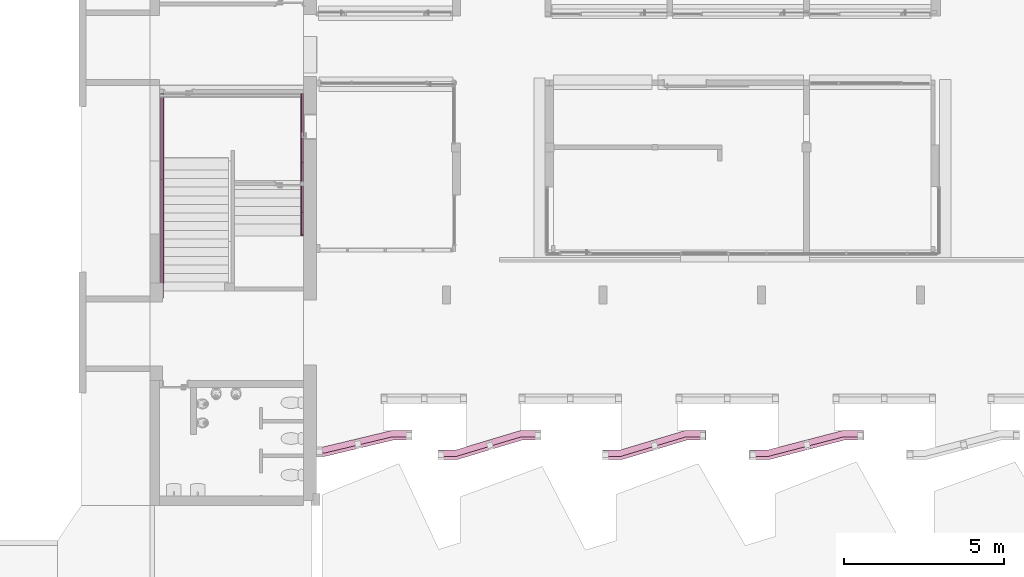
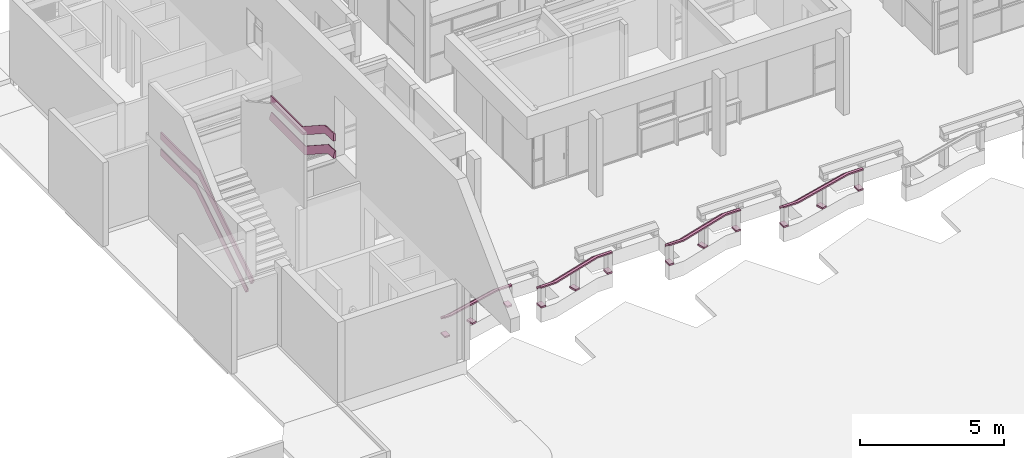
# One storey, part 115 of 117: 6 furniture elements.
"""IFC4 building model written with IfcOpenShell, lengths in metres."""

import ifcopenshell
import ifcopenshell.guid

model = None  # the IFC model being written
_history = None  # IfcOwnerHistory: only IFC2X3 demands one
_inside = {}  # id of a spatial element -> (the spatial element, [elements in it])
_under = {}  # id of a project, library or spatial element -> (it, [spatial elements below it])
_declared = {}  # id of a project -> (the project, [libraries it declares])
_typed = {}  # id of a type object -> (the type object, [elements of that type])
_made_of = {}  # id of a material, layer set ... -> (it, [elements and type objects made of it])


def new_model(schema):
    """Start an empty IFC model of exactly this schema.

    Asked for "IFC4X3", IfcOpenShell would pick the latest addendum, in which some entities
    have other attributes; the version numbers below select the first issue.
    IFC2X3 requires an IfcOwnerHistory on every rooted entity: one is made here for all.
    """
    global model, _history
    if schema == "IFC4X3":
        model = ifcopenshell.file(schema_version=(4, 3, 0, 0))
    else:
        model = ifcopenshell.file(schema=schema)
    _inside.clear()
    _under.clear()
    _declared.clear()
    _typed.clear()
    _made_of.clear()
    _history = None
    if model.schema == "IFC2X3":
        org = make("IfcOrganization", Name="unknown")
        user = make(
            "IfcPersonAndOrganization",
            ThePerson=make("IfcPerson", FamilyName="unknown"),
            TheOrganization=org,
        )
        app = make(
            "IfcApplication",
            ApplicationDeveloper=org,
            Version="unknown",
            ApplicationFullName="unknown",
            ApplicationIdentifier="unknown",
        )
        _history = make(
            "IfcOwnerHistory",
            OwningUser=user,
            OwningApplication=app,
            ChangeAction="ADDED",
            CreationDate=0,
        )
    return model


def make(cls, **values):
    """One entity of the class cls with the attributes given. An attribute that is None is left unset."""
    return model.create_entity(
        cls, **{name: value for name, value in values.items() if value is not None}
    )


def entity(cls, *values):
    """Any entity or typed value of the class cls, its attributes in the order of the schema. None: left unset."""
    e = model.create_entity(cls)
    for i, value in enumerate(values):
        if value is not None:
            e[i] = value
    return e


def rooted(cls, **values):
    """An entity with a GlobalId (a new one), such as an element, a storey or a relation."""
    return make(cls, GlobalId=ifcopenshell.guid.new(), OwnerHistory=_history, **values)


def si_unit(unit_type, name, prefix=None):
    """IfcSIUnit, for example si_unit("LENGTHUNIT", "METRE", prefix="MILLI")."""
    return make("IfcSIUnit", UnitType=unit_type, Prefix=prefix, Name=name)


def converted_unit(unit_type, name, factor, base, dimensions=None, offset=None):
    """IfcConversionBasedUnit, such as the inch: factor (a typed value) times the base unit."""
    return make(
        "IfcConversionBasedUnit"
        if offset is None
        else "IfcConversionBasedUnitWithOffset",
        ConversionOffset=offset,
        Dimensions=None
        if dimensions is None
        else entity("IfcDimensionalExponents", *dimensions),
        UnitType=unit_type,
        Name=name,
        ConversionFactor=make(
            "IfcMeasureWithUnit", ValueComponent=factor, UnitComponent=base
        ),
    )


def derived_unit(unit_type, elements):
    """IfcDerivedUnit: a product of units, each with its exponent."""
    return make(
        "IfcDerivedUnit",
        Elements=[
            make("IfcDerivedUnitElement", Unit=unit, Exponent=power)
            for unit, power in elements
        ],
        UnitType=unit_type,
    )


def assignment(units):
    """IfcUnitAssignment: the units of a project."""
    return None if units is None else make("IfcUnitAssignment", Units=units)


def point(xyz):
    """IfcCartesianPoint."""
    return None if xyz is None else make("IfcCartesianPoint", Coordinates=xyz)


def direction(xyz):
    """IfcDirection."""
    return None if xyz is None else make("IfcDirection", DirectionRatios=xyz)


def frame(location, z_axis=None, x_axis=None):
    """IfcAxis2Placement3D, a coordinate frame: its origin and axes. An axis left out is left unset."""
    return make(
        "IfcAxis2Placement3D",
        Location=point(location),
        Axis=direction(z_axis),
        RefDirection=direction(x_axis),
    )


def origin():
    """The frame at (0, 0, 0) with its axes left unset."""
    return frame((0.0, 0.0, 0.0))


def place(relative_to, where):
    """IfcLocalPlacement: puts the frame where relative to a parent placement (None: the world)."""
    return make(
        "IfcLocalPlacement", PlacementRelTo=relative_to, RelativePlacement=where
    )


def context(
    kind, dimensions, precision=None, world=None, true_north=None, identifier=None
):
    """IfcGeometricRepresentationContext, for example the 3D "Model" context."""
    return make(
        "IfcGeometricRepresentationContext",
        ContextIdentifier=identifier,
        ContextType=kind,
        CoordinateSpaceDimension=dimensions,
        Precision=precision,
        WorldCoordinateSystem=world,
        TrueNorth=true_north,
    )


def subcontext(parent, identifier, kind, view, scale=None):
    """IfcGeometricRepresentationSubContext, for example "Body" below "Model"."""
    return make(
        "IfcGeometricRepresentationSubContext",
        ContextIdentifier=identifier,
        ContextType=kind,
        ParentContext=parent,
        TargetScale=scale,
        TargetView=view,
    )


def project(units=None, contexts=None):
    """IfcProject with its units and contexts."""
    return rooted(
        "IfcProject",
        Name="project",
        RepresentationContexts=contexts,
        UnitsInContext=assignment(units),
    )


def spatial(cls, under=None, at=None, **own):
    """A site, building, storey or space (cls), placed at a placement, below another one or the project."""
    s = rooted(cls, ObjectPlacement=at, **own)
    if under is not None:
        _under.setdefault(under.id(), (under, []))[1].append(s)
    return s


def point_list(points):
    """IfcCartesianPointList2D or 3D."""
    cls = (
        "IfcCartesianPointList2D" if len(points[0]) == 2 else "IfcCartesianPointList3D"
    )
    return make(cls, CoordList=points)


def polygons(points, faces, closed=None, point_numbers=None):
    """IfcPolygonalFaceSet: a face is its outer loop, then its inner loops; points numbered from 1."""
    made = []
    for loops in faces:
        if len(loops) == 1:
            made.append(make("IfcIndexedPolygonalFace", CoordIndex=loops[0]))
        else:
            made.append(
                make(
                    "IfcIndexedPolygonalFaceWithVoids",
                    CoordIndex=loops[0],
                    InnerCoordIndices=loops[1:],
                )
            )
    return make(
        "IfcPolygonalFaceSet",
        Coordinates=point_list(points),
        Closed=closed,
        Faces=made,
        PnIndex=point_numbers,
    )


def shape(context_of_items, identifier, shape_type, items):
    """IfcShapeRepresentation: the items that make up one representation, for example the "Body"."""
    return make(
        "IfcShapeRepresentation",
        ContextOfItems=context_of_items,
        RepresentationIdentifier=identifier,
        RepresentationType=shape_type,
        Items=items,
    )


def source(mapping_origin, context_of_items, identifier, shape_type, items):
    """IfcRepresentationMap: a shape defined once, which mapped items show again and again."""
    return make(
        "IfcRepresentationMap",
        MappingOrigin=mapping_origin,
        MappedRepresentation=shape(context_of_items, identifier, shape_type, items),
    )


def transform(
    local_origin,
    x_axis=None,
    y_axis=None,
    z_axis=None,
    scale=None,
    scale2=None,
    scale3=None,
    uniform=True,
):
    """IfcCartesianTransformationOperator3D, or its non-uniform kind. x_axis, y_axis, z_axis: its Axis1, 2, 3."""
    if uniform:
        return make(
            "IfcCartesianTransformationOperator3D",
            Axis1=direction(x_axis),
            Axis2=direction(y_axis),
            LocalOrigin=point(local_origin),
            Scale=scale,
            Axis3=direction(z_axis),
        )
    return make(
        "IfcCartesianTransformationOperator3DnonUniform",
        Axis1=direction(x_axis),
        Axis2=direction(y_axis),
        LocalOrigin=point(local_origin),
        Scale=scale,
        Axis3=direction(z_axis),
        Scale2=scale2,
        Scale3=scale3,
    )


def mapped(mapping_source, mapping_target):
    """IfcMappedItem: shows the shape of a source again, moved by a transform."""
    return make(
        "IfcMappedItem", MappingSource=mapping_source, MappingTarget=mapping_target
    )


def material(Name=None, Category=None):
    """IfcMaterial."""
    return make("IfcMaterial", Name=Name, Category=Category)


def made_of(thing, what):
    """Note that an element or type object is made of a material, layer set ...; save() writes the relation."""
    if what is not None:
        _made_of.setdefault(what.id(), (what, []))[1].append(thing)
    return thing


def type_object(cls, material=None, **own):
    """A type object (cls), such as IfcWallType, which elements share."""
    return made_of(rooted(cls, **own), material)


def type_shapes(of_type, sources):
    """Give a type object the sources (RepresentationMaps) that its elements show as mapped items."""
    of_type.RepresentationMaps = sources


def element(
    cls,
    number,
    at=None,
    inside=None,
    cuts=None,
    type_object=None,
    material=None,
    context=None,
    identifier="Body",
    shape_type=None,
    held_by="IfcProductDefinitionShape",
    body=None,
    shapes=None,
    **own,
):
    """One element of the class cls, such as IfcWall. Its Tag is "e" and its number.

    at: its placement. inside: the storey or other place that contains it. cuts: it is an
    opening in that element (IfcRelVoidsElement). A single representation is given by context,
    identifier, shape_type and body (its items); several are given by shapes. held_by: the class
    of the entity that holds the representations. save() writes the other relations.
    """
    e = rooted(cls, Tag="e%d" % number, ObjectPlacement=at, **own)
    if body is not None:
        shapes = [shape(context, identifier, shape_type, body)]
    if shapes is not None:
        e.Representation = make(held_by, Representations=shapes)
    if inside is not None:
        _inside.setdefault(inside.id(), (inside, []))[1].append(e)
    if cuts is not None:
        rooted(
            "IfcRelVoidsElement", RelatingBuildingElement=cuts, RelatedOpeningElement=e
        )
    if type_object is not None:
        _typed.setdefault(type_object.id(), (type_object, []))[1].append(e)
    return made_of(e, material)


def aggregate(whole, parts):
    """IfcRelAggregates: a whole, such as a stair, and the parts it consists of."""
    return rooted("IfcRelAggregates", RelatingObject=whole, RelatedObjects=parts)


def save(model, path):
    """Write the relations noted so far, then the file.

    IfcRelAggregates (storeys below a building ...), IfcRelContainedInSpatialStructure (elements
    in a storey), IfcRelDefinesByType, IfcRelAssociatesMaterial and IfcRelDeclares: one each for
    every whole, place, type object, material and project.
    """
    for whole, parts in _under.values():
        aggregate(whole, parts)
    for where, things in _inside.values():
        rooted(
            "IfcRelContainedInSpatialStructure",
            RelatedElements=things,
            RelatingStructure=where,
        )
    for kind, things in _typed.values():
        rooted("IfcRelDefinesByType", RelatedObjects=things, RelatingType=kind)
    for what, things in _made_of.values():
        rooted("IfcRelAssociatesMaterial", RelatedObjects=things, RelatingMaterial=what)
    for by, libraries in _declared.values():
        rooted("IfcRelDeclares", RelatingContext=by, RelatedDefinitions=libraries)
    model.write(path)


model = new_model("IFC4")

# Units and contexts
model_context = context("Model", 3, precision=1e-05, world=origin(), true_north=direction((6.123031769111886e-17, 1.0)))
body_context = subcontext(model_context, "Body", "Model", "MODEL_VIEW")
ifc_project = project(units=[si_unit("LENGTHUNIT", "METRE"), si_unit("AREAUNIT", "SQUARE_METRE"), si_unit("VOLUMEUNIT", "CUBIC_METRE"), converted_unit("PLANEANGLEUNIT", "DEGREE", entity("IfcRatioMeasure", 0.017453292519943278), si_unit("PLANEANGLEUNIT", "RADIAN"), dimensions=[0, 0, 0, 0, 0, 0, 0]), si_unit("MASSUNIT", "GRAM", prefix="KILO"), derived_unit("MASSDENSITYUNIT", [(si_unit("MASSUNIT", "GRAM", prefix="KILO"), 1), (si_unit("LENGTHUNIT", "METRE"), -3)]), derived_unit("MOMENTOFINERTIAUNIT", [(si_unit("LENGTHUNIT", "METRE"), 4)]), si_unit("TIMEUNIT", "SECOND"), si_unit("FREQUENCYUNIT", "HERTZ"), si_unit("THERMODYNAMICTEMPERATUREUNIT", "DEGREE_CELSIUS"), derived_unit("THERMALTRANSMITTANCEUNIT", [(si_unit("MASSUNIT", "GRAM", prefix="KILO"), 1), (si_unit("THERMODYNAMICTEMPERATUREUNIT", "KELVIN"), -1), (si_unit("TIMEUNIT", "SECOND"), -3)]), derived_unit("VOLUMETRICFLOWRATEUNIT", [(si_unit("LENGTHUNIT", "METRE"), 3), (si_unit("TIMEUNIT", "SECOND"), -1)]), derived_unit("MASSFLOWRATEUNIT", [(si_unit("MASSUNIT", "GRAM", prefix="KILO"), 1), (si_unit("TIMEUNIT", "SECOND"), -1)]), derived_unit("ROTATIONALFREQUENCYUNIT", [(si_unit("TIMEUNIT", "SECOND"), -1)]), si_unit("ELECTRICCURRENTUNIT", "AMPERE"), si_unit("ELECTRICVOLTAGEUNIT", "VOLT"), si_unit("POWERUNIT", "WATT"), si_unit("FORCEUNIT", "NEWTON", prefix="KILO"), si_unit("ILLUMINANCEUNIT", "LUX"), si_unit("LUMINOUSFLUXUNIT", "LUMEN"), si_unit("LUMINOUSINTENSITYUNIT", "CANDELA"), derived_unit("USERDEFINED", [(si_unit("MASSUNIT", "GRAM", prefix="KILO"), -1), (si_unit("LENGTHUNIT", "METRE"), -2), (si_unit("TIMEUNIT", "SECOND"), 3), (si_unit("LUMINOUSFLUXUNIT", "LUMEN"), 1)]), derived_unit("SOUNDPOWERUNIT", [(si_unit("MASSUNIT", "GRAM", prefix="KILO"), 1), (si_unit("LENGTHUNIT", "METRE"), 2), (si_unit("TIMEUNIT", "SECOND"), -3)]), derived_unit("SOUNDPRESSUREUNIT", [(si_unit("MASSUNIT", "GRAM", prefix="KILO"), 1), (si_unit("LENGTHUNIT", "METRE"), -1), (si_unit("TIMEUNIT", "SECOND"), -2)]), derived_unit("LINEARVELOCITYUNIT", [(si_unit("LENGTHUNIT", "METRE"), 1), (si_unit("TIMEUNIT", "SECOND"), -1)]), si_unit("PRESSUREUNIT", "PASCAL"), derived_unit("USERDEFINED", [(si_unit("LENGTHUNIT", "METRE"), -2), (si_unit("MASSUNIT", "GRAM", prefix="KILO"), 1), (si_unit("TIMEUNIT", "SECOND"), -2)]), derived_unit("LINEARFORCEUNIT", [(si_unit("MASSUNIT", "GRAM", prefix="KILO"), 1), (si_unit("LENGTHUNIT", "METRE"), 1), (si_unit("TIMEUNIT", "SECOND"), -2), (si_unit("LENGTHUNIT", "METRE"), -1)]), derived_unit("PLANARFORCEUNIT", [(si_unit("MASSUNIT", "GRAM", prefix="KILO"), 1), (si_unit("LENGTHUNIT", "METRE"), 1), (si_unit("TIMEUNIT", "SECOND"), -2), (si_unit("LENGTHUNIT", "METRE"), -2)])], contexts=[model_context])

# Site, building, storey
site_placement = place(None, origin())
site = spatial("IfcSite", under=ifc_project, at=site_placement, Name="Superficie", CompositionType="ELEMENT")
building_placement = place(site_placement, origin())
building = spatial("IfcBuilding", under=site, at=building_placement, CompositionType="ELEMENT")
storey_placement = place(building_placement, origin())
storey = spatial("IfcBuildingStorey", under=building, at=storey_placement, Name="Nivel 0", CompositionType="ELEMENT", Elevation=0.0)

# Furniture
ifc_material = material(Name="Madera - Listel", Category="Madera")
furniture_type_1 = type_object("IfcFurnitureType", Name="baranda andenes9:baranda andenes", AssemblyPlace="NOTDEFINED", PredefinedType="NOTDEFINED", material=ifc_material)
shared_shape_1 = source(origin(), body_context, "Body", "Tessellation", [
    polygons([(2.789999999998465, 0.8103703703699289, 0.07), (2.789999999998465, 0.5103703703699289, 0.07), (2.989999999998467, 0.5103703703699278, 0.07), (2.989999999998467, 0.8103703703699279, 0.07), (2.889999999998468, 0.8103703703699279, 0.07), (2.789999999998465, 0.8103703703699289, 0.0), (2.789999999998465, 0.5103703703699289, 0.0), (2.989999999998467, 0.5103703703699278, 0.0), (2.989999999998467, 0.8103703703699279, 0.0), (2.889999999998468, 0.8103703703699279, 0.0)], [[[1, 2, 3, 4, 5]], [[2, 1, 6, 7]], [[3, 2, 7, 8]], [[4, 3, 8, 9]], [[5, 4, 9, 10]], [[1, 5, 10, 6]], [[6, 10, 9, 8, 7]]], closed=True),
    polygons([(4.331468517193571e-15, 0.30000000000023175, 0.0), (0.2000000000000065, 0.3000000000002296, 0.0), (0.2000000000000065, 2.306506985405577e-13, 0.0), (4.331468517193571e-15, 2.306506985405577e-13, 0.0), (4.331468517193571e-15, 2.306506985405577e-13, 0.07), (4.331468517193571e-15, 0.30000000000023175, 0.07), (0.2000000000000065, 2.306506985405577e-13, 0.07), (0.2000000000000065, 0.3000000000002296, 0.07)], [[[1, 2, 3, 4]], [[5, 6, 1, 4]], [[7, 5, 4, 3]], [[8, 7, 3, 2]], [[6, 8, 2, 1]], [[6, 5, 7, 8]]], closed=True),
    polygons([(1.2277526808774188, 0.23188370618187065, 0.07), (1.1578482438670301, 0.5236256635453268, 0.07), (1.1578482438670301, 0.5236256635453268, 0.0), (1.2277526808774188, 0.23188370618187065, 0.0), (1.422247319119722, 0.27848666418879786, 0.07), (1.422247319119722, 0.27848666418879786, 0.0), (1.3523428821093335, 0.570228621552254, 0.07), (1.3523428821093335, 0.570228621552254, 0.0), (1.255095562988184, 0.5469271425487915, 0.07), (1.255095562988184, 0.5469271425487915, 0.0)], [[[1, 2, 3, 4]], [[5, 1, 4, 6]], [[7, 5, 6, 8]], [[9, 7, 8, 10]], [[2, 9, 10, 3]], [[3, 10, 8, 6, 4]], [[2, 1, 5, 7, 9]]], closed=True),
    polygons([(4.331468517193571e-15, 0.10384615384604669, 0.9000000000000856), (4.331468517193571e-15, 0.3000000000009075, 0.7499999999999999), (4.331468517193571e-15, 0.30000000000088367, 0.66), (4.331468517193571e-15, 0.240000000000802, 0.6600000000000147), (4.331468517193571e-15, 0.24000000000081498, 0.7100000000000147), (4.331468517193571e-15, 0.07000000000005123, 0.8399999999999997), (4.331468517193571e-15, 5.089475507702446e-14, 0.8400000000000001), (4.331468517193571e-15, 1.0828671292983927e-15, 0.8999999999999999), (2.9899999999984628, 0.6142165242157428, 0.9000000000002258), (2.9899999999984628, 0.5103703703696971, 0.9000000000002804), (2.9899999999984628, 0.510370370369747, 0.8399999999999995), (2.9899999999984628, 0.5803703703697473, 0.8399999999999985), (2.9899999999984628, 0.750370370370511, 0.7100000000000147), (2.9899999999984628, 0.750370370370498, 0.6599999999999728), (2.9899999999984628, 0.8103703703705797, 0.6599999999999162), (2.9899999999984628, 0.8103703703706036, 0.7500000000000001), (0.24773230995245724, 0.10384615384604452, 0.9000000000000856), (0.2245600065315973, 0.3000000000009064, 0.7499999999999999), (0.2245600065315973, 0.30000000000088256, 0.66), (2.3545600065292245, 0.8103703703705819, 0.6599999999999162), (2.3616480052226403, 0.7503703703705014, 0.6600000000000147), (0.23164800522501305, 0.240000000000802, 0.6600000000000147), (0.23164800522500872, 0.2400000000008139, 0.7100000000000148), (0.2517306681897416, 0.07000000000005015, 0.8400000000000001), (2.3817306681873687, 0.5803703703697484, 0.8399999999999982), (2.389999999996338, 0.5103703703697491, 0.8400000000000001), (0.25999999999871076, 4.981188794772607e-14, 0.8400000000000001), (0.2599999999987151, -1.0828671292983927e-15, 0.8999999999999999), (2.389999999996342, 0.5103703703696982, 0.9000000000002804), (2.3777323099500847, 0.6142165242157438, 0.9000000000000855), (2.3545600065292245, 0.8103703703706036, 0.7499999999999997), (2.361648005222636, 0.7503703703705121, 0.7100000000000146)], [[[1, 2, 3, 4, 5, 6, 7, 8]], [[9, 10, 11, 12, 13, 14, 15, 16]], [[2, 1, 17, 18]], [[3, 2, 18, 19]], [[4, 3, 19, 20, 15, 14, 21, 22]], [[5, 4, 22, 23]], [[6, 5, 23, 24]], [[7, 6, 24, 25, 12, 11, 26, 27]], [[8, 7, 27, 28]], [[1, 8, 28, 29, 10, 9, 30, 17]], [[18, 17, 30, 31]], [[19, 18, 31, 20]], [[23, 22, 21, 32]], [[24, 23, 32, 25]], [[28, 27, 26, 29]], [[31, 30, 9, 16]], [[20, 31, 16, 15]], [[32, 21, 14, 13]], [[25, 32, 13, 12]], [[29, 26, 11, 10]]], closed=True),
])
type_shapes(furniture_type_1, [shared_shape_1])
furniture_1_placement = place(storey_placement, frame((-22.643200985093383, -8.09454108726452, 0.0)))
element("IfcFurniture", 1, at=furniture_1_placement, inside=storey, type_object=furniture_type_1, material=ifc_material, Name="baranda andenes9:baranda andenes", ObjectType="baranda andenes9:baranda andenes", PredefinedType="NOTDEFINED", context=body_context, shape_type="MappedRepresentation", body=[
    mapped(shared_shape_1, transform((0.0, 0.0, 0.0), scale=1.0)),
])
furniture_type_2 = type_object("IfcFurnitureType", Name="baranda andenes10:baranda andenes", AssemblyPlace="NOTDEFINED", PredefinedType="NOTDEFINED", material=ifc_material)
shared_shape_2 = source(origin(), body_context, "Body", "Tessellation", [
    polygons([(3.0299999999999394, 0.9099999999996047, 0.07), (3.0299999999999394, 0.6099999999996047, 0.07), (3.2299999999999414, 0.6099999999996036, 0.07), (3.2299999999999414, 0.9099999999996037, 0.07), (3.1299999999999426, 0.9099999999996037, 0.07), (3.0299999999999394, 0.9099999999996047, 0.0), (3.0299999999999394, 0.6099999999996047, 0.0), (3.2299999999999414, 0.6099999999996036, 0.0), (3.2299999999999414, 0.9099999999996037, 0.0), (3.1299999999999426, 0.9099999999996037, 0.0)], [[[1, 2, 3, 4, 5]], [[2, 1, 6, 7]], [[3, 2, 7, 8]], [[4, 3, 8, 9]], [[5, 4, 9, 10]], [[1, 5, 10, 6]], [[6, 10, 9, 8, 7]]], closed=True),
    polygons([(2.382307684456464e-14, 0.3000000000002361, 0.0), (0.20000000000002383, 0.3000000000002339, 0.0), (0.20000000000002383, 2.349821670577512e-13, 0.0), (2.382307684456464e-14, 2.360650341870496e-13, 0.0), (2.382307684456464e-14, 2.360650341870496e-13, 0.07), (2.382307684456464e-14, 0.3000000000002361, 0.07), (0.20000000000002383, 2.349821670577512e-13, 0.07), (0.20000000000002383, 0.3000000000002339, 0.07)], [[[1, 2, 3, 4]], [[5, 6, 1, 4]], [[7, 5, 4, 3]], [[8, 7, 3, 2]], [[6, 8, 2, 1]], [[6, 5, 7, 8]]], closed=True),
    polygons([(1.5614646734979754, 0.2889130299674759, 0.07), (1.4751304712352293, 0.5762219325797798, 0.07), (1.4751304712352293, 0.5762219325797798, 0.0), (1.5614646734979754, 0.2889130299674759, 0.0), (1.753003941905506, 0.3464691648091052, 0.07), (1.753003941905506, 0.3464691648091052, 0.0), (1.6666697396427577, 0.6337780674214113, 0.07), (1.6666697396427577, 0.6337780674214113, 0.0), (1.5709001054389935, 0.6050000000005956, 0.07), (1.5709001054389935, 0.6050000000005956, 0.0)], [[[1, 2, 3, 4]], [[5, 1, 4, 6]], [[7, 5, 6, 8]], [[9, 7, 8, 10]], [[2, 9, 10, 3]], [[3, 10, 8, 6, 4]], [[2, 1, 5, 7, 9]]], closed=True),
    polygons([(6.497202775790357e-15, 0.10384615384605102, 0.9000000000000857), (6.497202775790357e-15, 0.3000000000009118, 0.7499999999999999), (6.497202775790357e-15, 0.30000000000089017, 0.66), (6.497202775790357e-15, 0.24000000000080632, 0.6600000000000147), (6.497202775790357e-15, 0.24000000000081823, 0.7100000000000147), (6.497202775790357e-15, 0.07000000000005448, 0.8399999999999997), (6.497202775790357e-15, 5.4143356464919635e-14, 0.8400000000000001), (6.497202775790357e-15, 5.4143356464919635e-15, 0.8999999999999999), (3.229999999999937, 0.7138461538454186, 0.900000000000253), (3.229999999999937, 0.6099999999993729, 0.9000000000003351), (3.229999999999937, 0.6099999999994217, 0.8399999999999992), (3.229999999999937, 0.6799999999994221, 0.8399999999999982), (3.229999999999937, 0.8500000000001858, 0.7100000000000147), (3.229999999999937, 0.8500000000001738, 0.6599999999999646), (3.229999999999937, 0.9100000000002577, 0.6599999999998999), (3.229999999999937, 0.9100000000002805, 0.7499999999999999), (2.5859001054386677, 0.9100000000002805, 0.7499999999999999), (2.6147346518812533, 0.7138461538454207, 0.9000000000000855), (2.58590010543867, 0.9100000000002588, 0.6599999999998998), (2.594720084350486, 0.8500000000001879, 0.7100000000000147), (2.5947200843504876, 0.8500000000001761, 0.6600000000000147), (2.6197100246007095, 0.6799999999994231, 0.8399999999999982), (2.6299999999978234, 0.609999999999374, 0.9000000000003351), (2.6299999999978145, 0.6099999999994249, 0.8400000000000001), (0.5847346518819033, 0.10384615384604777, 0.9000000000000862), (0.5559001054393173, 0.30000000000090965, 0.7500000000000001), (0.5559001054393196, 0.3000000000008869, 0.66), (0.5647200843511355, 0.24000000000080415, 0.6600000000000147), (0.5647200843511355, 0.24000000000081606, 0.7100000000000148), (0.5897100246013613, 0.07000000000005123, 0.8400000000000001), (0.5999999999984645, 5.089475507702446e-14, 0.8400000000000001), (0.5999999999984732, 2.1657342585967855e-15, 0.8999999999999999)], [[[1, 2, 3, 4, 5, 6, 7, 8]], [[9, 10, 11, 12, 13, 14, 15, 16]], [[17, 18, 9, 16]], [[19, 17, 16, 15]], [[20, 21, 14, 13]], [[22, 20, 13, 12]], [[23, 24, 11, 10]], [[2, 1, 25, 26]], [[3, 2, 26, 27]], [[4, 3, 27, 19, 15, 14, 21, 28]], [[5, 4, 28, 29]], [[6, 5, 29, 30]], [[7, 6, 30, 22, 12, 11, 24, 31]], [[8, 7, 31, 32]], [[1, 8, 32, 23, 10, 9, 18, 25]], [[26, 25, 18, 17]], [[27, 26, 17, 19]], [[29, 28, 21, 20]], [[30, 29, 20, 22]], [[32, 31, 24, 23]]], closed=True),
])
type_shapes(furniture_type_2, [shared_shape_2])
furniture_2_placement = place(storey_placement, frame((-18.85320098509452, -8.194170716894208, 0.0)))
element("IfcFurniture", 2, at=furniture_2_placement, inside=storey, type_object=furniture_type_2, material=ifc_material, Name="baranda andenes10:baranda andenes", ObjectType="baranda andenes10:baranda andenes", PredefinedType="NOTDEFINED", context=body_context, shape_type="MappedRepresentation", body=[
    mapped(shared_shape_2, transform((0.0, 0.0, 0.0), scale=1.0)),
])
furniture_type_3 = type_object("IfcFurnitureType", Name="baranda andenes11:baranda andenes", AssemblyPlace="NOTDEFINED", PredefinedType="NOTDEFINED", material=ifc_material)
shared_shape_3 = source(origin(), body_context, "Body", "Tessellation", [
    polygons([(3.029999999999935, 0.9099999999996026, 0.07), (3.029999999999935, 0.6099999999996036, 0.07), (3.229999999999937, 0.6099999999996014, 0.07), (3.229999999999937, 0.9099999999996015, 0.07), (3.129999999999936, 0.9099999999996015, 0.07), (3.029999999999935, 0.9099999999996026, 0.0), (3.029999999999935, 0.6099999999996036, 0.0), (3.229999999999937, 0.6099999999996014, 0.0), (3.229999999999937, 0.9099999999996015, 0.0), (3.129999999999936, 0.9099999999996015, 0.0)], [[[1, 2, 3, 4, 5]], [[2, 1, 6, 7]], [[3, 2, 7, 8]], [[4, 3, 8, 9]], [[5, 4, 9, 10]], [[1, 5, 10, 6]], [[6, 10, 9, 8, 7]]], closed=True),
    polygons([(1.949160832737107e-14, 0.3000000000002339, 0.0), (0.20000000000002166, 0.30000000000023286, 0.0), (0.20000000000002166, 2.328164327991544e-13, 0.0), (1.949160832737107e-14, 2.338992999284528e-13, 0.0), (1.949160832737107e-14, 2.338992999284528e-13, 0.07), (1.949160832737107e-14, 0.3000000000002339, 0.07), (0.20000000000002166, 2.328164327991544e-13, 0.07), (0.20000000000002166, 0.30000000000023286, 0.07)], [[[1, 2, 3, 4]], [[5, 6, 1, 4]], [[7, 5, 4, 3]], [[8, 7, 3, 2]], [[6, 8, 2, 1]], [[6, 5, 7, 8]]], closed=True),
    polygons([(1.5614646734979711, 0.28891302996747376, 0.07), (1.475130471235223, 0.5762219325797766, 0.07), (1.475130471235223, 0.5762219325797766, 0.0), (1.5614646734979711, 0.28891302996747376, 0.0), (1.7530039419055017, 0.3464691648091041, 0.07), (1.7530039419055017, 0.3464691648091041, 0.0), (1.6666697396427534, 0.6337780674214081, 0.07), (1.6666697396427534, 0.6337780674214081, 0.0), (1.5709001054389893, 0.6050000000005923, 0.07), (1.5709001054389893, 0.6050000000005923, 0.0)], [[[1, 2, 3, 4]], [[5, 1, 4, 6]], [[7, 5, 6, 8]], [[9, 7, 8, 10]], [[2, 9, 10, 3]], [[3, 10, 8, 6, 4]], [[2, 1, 5, 7, 9]]], closed=True),
    polygons([(6.497202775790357e-15, 0.10384615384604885, 0.9000000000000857), (6.497202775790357e-15, 0.3000000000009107, 0.7500000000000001), (6.497202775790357e-15, 0.300000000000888, 0.66), (6.497202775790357e-15, 0.24000000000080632, 0.6600000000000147), (6.497202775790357e-15, 0.24000000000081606, 0.7100000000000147), (6.497202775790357e-15, 0.0700000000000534, 0.8399999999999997), (6.497202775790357e-15, 5.4143356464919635e-14, 0.8400000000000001), (6.497202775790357e-15, 3.2486013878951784e-15, 0.8999999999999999), (3.229999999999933, 0.7138461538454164, 0.9000000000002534), (3.229999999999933, 0.6099999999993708, 0.9000000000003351), (3.229999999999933, 0.6099999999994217, 0.8399999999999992), (3.229999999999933, 0.6799999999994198, 0.8399999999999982), (3.229999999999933, 0.8500000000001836, 0.7100000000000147), (3.229999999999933, 0.8500000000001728, 0.6599999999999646), (3.229999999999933, 0.9100000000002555, 0.6599999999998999), (3.229999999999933, 0.9100000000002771, 0.7499999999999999), (2.585900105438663, 0.9100000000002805, 0.7500000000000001), (2.6147346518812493, 0.7138461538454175, 0.9000000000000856), (2.5859001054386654, 0.9100000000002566, 0.6599999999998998), (2.5947200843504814, 0.8500000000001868, 0.7100000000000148), (2.5947200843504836, 0.850000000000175, 0.6600000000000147), (2.619710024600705, 0.6799999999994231, 0.8399999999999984), (2.629999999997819, 0.6099999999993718, 0.9000000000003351), (2.6299999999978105, 0.6099999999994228, 0.8400000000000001), (0.5847346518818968, 0.1038461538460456, 0.9000000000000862), (0.555900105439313, 0.30000000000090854, 0.7500000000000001), (0.5559001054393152, 0.3000000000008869, 0.66), (0.5647200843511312, 0.240000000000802, 0.6600000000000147), (0.5647200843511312, 0.24000000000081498, 0.7100000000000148), (0.5897100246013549, 0.07000000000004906, 0.8400000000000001), (0.5999999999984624, 5.089475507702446e-14, 0.8400000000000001), (0.5999999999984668, 2.1657342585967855e-15, 0.8999999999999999)], [[[1, 2, 3, 4, 5, 6, 7, 8]], [[9, 10, 11, 12, 13, 14, 15, 16]], [[17, 18, 9, 16]], [[19, 17, 16, 15]], [[20, 21, 14, 13]], [[22, 20, 13, 12]], [[23, 24, 11, 10]], [[2, 1, 25, 26]], [[3, 2, 26, 27]], [[4, 3, 27, 19, 15, 14, 21, 28]], [[5, 4, 28, 29]], [[6, 5, 29, 30]], [[7, 6, 30, 22, 12, 11, 24, 31]], [[8, 7, 31, 32]], [[1, 8, 32, 23, 10, 9, 18, 25]], [[26, 25, 18, 17]], [[27, 26, 17, 19]], [[29, 28, 21, 20]], [[30, 29, 20, 22]], [[32, 31, 24, 23]]], closed=True),
])
type_shapes(furniture_type_3, [shared_shape_3])
furniture_3_placement = place(storey_placement, frame((-13.713200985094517, -8.194170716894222, 0.0)))
element("IfcFurniture", 3, at=furniture_3_placement, inside=storey, type_object=furniture_type_3, material=ifc_material, Name="baranda andenes11:baranda andenes", ObjectType="baranda andenes11:baranda andenes", PredefinedType="NOTDEFINED", context=body_context, shape_type="MappedRepresentation", body=[
    mapped(shared_shape_3, transform((0.0, 0.0, 0.0), scale=1.0)),
])
furniture_type_4 = type_object("IfcFurnitureType", Name="baranda andenes12:baranda andenes", AssemblyPlace="NOTDEFINED", PredefinedType="NOTDEFINED", material=ifc_material)
shared_shape_4 = source(origin(), body_context, "Body", "Tessellation", [
    polygons([(3.349999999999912, 0.9099999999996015, 0.07), (3.349999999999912, 0.6099999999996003, 0.07), (3.549999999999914, 0.6099999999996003, 0.07), (3.549999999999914, 0.9099999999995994, 0.07), (3.449999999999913, 0.9099999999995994, 0.07), (3.349999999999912, 0.9099999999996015, 0.0), (3.349999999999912, 0.6099999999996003, 0.0), (3.549999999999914, 0.6099999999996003, 0.0), (3.549999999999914, 0.9099999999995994, 0.0), (3.449999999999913, 0.9099999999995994, 0.0)], [[[1, 2, 3, 4, 5]], [[2, 1, 6, 7]], [[3, 2, 7, 8]], [[4, 3, 8, 9]], [[5, 4, 9, 10]], [[1, 5, 10, 6]], [[6, 10, 9, 8, 7]]], closed=True),
    polygons([(0.0, 0.3000000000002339, 0.0), (0.20000000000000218, 0.30000000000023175, 0.0), (0.20000000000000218, 2.328164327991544e-13, 0.0), (0.0, 2.328164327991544e-13, 0.0), (0.0, 2.328164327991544e-13, 0.07), (0.0, 0.3000000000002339, 0.07), (0.20000000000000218, 2.328164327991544e-13, 0.07), (0.20000000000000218, 0.30000000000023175, 0.07)], [[[1, 2, 3, 4]], [[5, 6, 1, 4]], [[7, 5, 4, 3]], [[8, 7, 3, 2]], [[6, 8, 2, 1]], [[6, 5, 7, 8]]], closed=True),
    polygons([(1.7262694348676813, 0.29246973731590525, 0.07), (1.6399062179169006, 0.5798751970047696, 0.07), (1.6399062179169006, 0.5798751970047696, 0.0), (1.7262694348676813, 0.29246973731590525, 0.0), (1.919853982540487, 0.34271934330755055, 0.07), (1.919853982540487, 0.34271934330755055, 0.0), (1.8445085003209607, 0.6329847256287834, 0.07), (1.8445085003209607, 0.6329847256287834, 0.0), (1.736698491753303, 0.6050000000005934, 0.07), (1.736698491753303, 0.6050000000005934, 0.0)], [[[1, 2, 3, 4]], [[5, 1, 4, 6]], [[7, 5, 6, 8]], [[9, 7, 8, 10]], [[2, 9, 10, 3]], [[3, 10, 8, 6, 4]], [[2, 1, 5, 7, 9]]], closed=True),
    polygons([(3.2486013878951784e-15, 0.10384615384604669, 0.9000000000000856), (4.331468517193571e-15, 0.30000000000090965, 0.7499999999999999), (4.331468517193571e-15, 0.30000000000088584, 0.66), (4.331468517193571e-15, 0.24000000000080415, 0.6600000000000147), (4.331468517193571e-15, 0.24000000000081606, 0.7100000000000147), (3.2486013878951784e-15, 0.07000000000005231, 0.8399999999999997), (3.2486013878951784e-15, 5.1977622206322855e-14, 0.8400000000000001), (3.2486013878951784e-15, 1.0828671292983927e-15, 0.8999999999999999), (3.549999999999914, 0.7138461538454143, 0.9000000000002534), (3.549999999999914, 0.6099999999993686, 0.9000000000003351), (3.549999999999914, 0.6099999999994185, 0.8399999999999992), (3.5499999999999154, 0.6799999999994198, 0.8399999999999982), (3.5499999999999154, 0.8500000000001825, 0.7100000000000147), (3.5499999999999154, 0.8500000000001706, 0.6599999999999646), (3.5499999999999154, 0.9100000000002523, 0.6599999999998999), (3.5499999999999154, 0.910000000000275, 0.7499999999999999), (2.9116984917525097, 0.9100000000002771, 0.7500000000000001), (2.936741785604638, 0.7138461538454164, 0.9000000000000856), (2.911698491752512, 0.9100000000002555, 0.6599999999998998), (2.9193587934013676, 0.8500000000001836, 0.7100000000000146), (2.919358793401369, 0.8500000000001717, 0.6600000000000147), (2.9410629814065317, 0.679999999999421, 0.839999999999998), (2.9499999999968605, 0.6099999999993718, 0.9000000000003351), (2.949999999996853, 0.6099999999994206, 0.8400000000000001), (0.5867417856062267, 0.1038461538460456, 0.9000000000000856), (0.5616984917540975, 0.3000000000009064, 0.7499999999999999), (0.5616984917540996, 0.3000000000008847, 0.66), (0.5693587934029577, 0.240000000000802, 0.6600000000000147), (0.5693587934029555, 0.2400000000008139, 0.7100000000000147), (0.5910629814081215, 0.07000000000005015, 0.8399999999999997), (0.5999999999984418, 5.089475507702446e-14, 0.8400000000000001), (0.5999999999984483, 0.0, 0.8999999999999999)], [[[1, 2, 3, 4, 5, 6, 7, 8]], [[9, 10, 11, 12, 13, 14, 15, 16]], [[17, 18, 9, 16]], [[19, 17, 16, 15]], [[20, 21, 14, 13]], [[22, 20, 13, 12]], [[23, 24, 11, 10]], [[2, 1, 25, 26]], [[3, 2, 26, 27]], [[4, 3, 27, 19, 15, 14, 21, 28]], [[5, 4, 28, 29]], [[6, 5, 29, 30]], [[7, 6, 30, 22, 12, 11, 24, 31]], [[8, 7, 31, 32]], [[1, 8, 32, 23, 10, 9, 18, 25]], [[26, 25, 18, 17]], [[27, 26, 17, 19]], [[29, 28, 21, 20]], [[30, 29, 20, 22]], [[32, 31, 24, 23]]], closed=True),
])
type_shapes(furniture_type_4, [shared_shape_4])
furniture_4_placement = place(storey_placement, frame((-9.113200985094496, -8.194170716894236, 0.0)))
element("IfcFurniture", 4, at=furniture_4_placement, inside=storey, type_object=furniture_type_4, material=ifc_material, Name="baranda andenes12:baranda andenes", ObjectType="baranda andenes12:baranda andenes", PredefinedType="NOTDEFINED", context=body_context, shape_type="MappedRepresentation", body=[
    mapped(shared_shape_4, transform((0.0, 0.0, 0.0), scale=1.0)),
])
furniture_type_5 = type_object("IfcFurnitureType", Name="Pasamanos escalera:Pasamanos escalera", AssemblyPlace="NOTDEFINED", PredefinedType="NOTDEFINED", material=ifc_material)
shared_shape_5 = source(origin(), body_context, "Body", "Tessellation", [
    polygons([(0.09999999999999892, 0.014887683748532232, 1.3483214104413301), (0.06999999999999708, 0.014887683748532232, 1.3483214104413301), (-4.331468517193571e-15, 0.004220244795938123, 1.133627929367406), (-4.331468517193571e-15, 4.060751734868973e-16, 1.0486910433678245), (0.0999999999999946, 2.707167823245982e-16, 1.0486910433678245), (0.0999999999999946, 0.404491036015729, 1.0285931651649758), (0.09999999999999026, 1.9885245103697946, 0.0), (0.09999999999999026, 4.45496547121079, 8.662937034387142e-15), (0.10000000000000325, 4.45496547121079, 0.3000000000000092), (0.10000000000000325, 2.077382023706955, 0.3000000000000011), (0.09999999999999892, 0.5000939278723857, 1.3242130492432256), (4.331468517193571e-15, 4.454965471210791, 8.662937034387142e-15), (-4.331468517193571e-15, 4.454965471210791, 0.08504166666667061), (0.07000000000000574, 4.45496547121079, 0.30000000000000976), (0.06999999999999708, 0.5000939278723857, 1.3242130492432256), (-4.331468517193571e-15, 0.43159180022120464, 1.1123931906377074), (-4.331468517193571e-15, 2.013713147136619, 0.08504166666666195), (4.331468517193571e-15, 1.9885245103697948, 0.0), (-4.331468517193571e-15, 0.40449103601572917, 1.0285931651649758), (0.07000000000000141, 2.077382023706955, 0.30000000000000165)], [[[1, 2, 3, 4, 5]], [[1, 5, 6, 7, 8, 9, 10, 11]], [[9, 8, 12, 13, 14]], [[2, 1, 11, 15]], [[3, 2, 15, 16]], [[4, 3, 16, 17, 13, 12, 18, 19]], [[5, 4, 19, 6]], [[15, 11, 10, 20]], [[16, 15, 20, 17]], [[6, 19, 18, 7]], [[20, 10, 9, 14]], [[17, 20, 14, 13]], [[7, 18, 12, 8]]], closed=True),
    polygons([(0.01615651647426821, 0.035183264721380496, 1.7567914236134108), (0.01615651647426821, 0.04510838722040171, 1.9565450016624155), (0.01615651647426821, 0.6941594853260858, 1.9242957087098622), (0.01615651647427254, 2.257755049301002, 0.9089739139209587), (0.01615651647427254, 4.454965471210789, 0.9089739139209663), (0.01615651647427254, 4.454965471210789, 0.7089739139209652), (0.01615651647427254, 2.1985167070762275, 0.7089739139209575), (0.01615651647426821, 0.6304242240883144, 1.727215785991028), (0.09999999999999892, 0.034737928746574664, 1.7478285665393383), (0.09999999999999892, 0.6275644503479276, 1.7183728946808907), (0.04858894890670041, 0.05005082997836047, 2.056016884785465), (0.09999999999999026, 0.04962561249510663, 2.0474589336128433), (0.09999999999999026, 0.723167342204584, 2.0139927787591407), (0.04858894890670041, 0.7258979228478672, 2.0224361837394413), (0.10000000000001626, 2.1958587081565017, 0.7000000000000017), (0.0999999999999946, 2.2847162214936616, 1.0000000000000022), (0.048588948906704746, 2.2872541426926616, 1.0085685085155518), (0.10000000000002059, 4.454965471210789, 0.7000000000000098), (0.10000000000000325, 4.454965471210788, 1.0000000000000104), (0.048588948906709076, 4.454965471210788, 1.0085685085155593)], [[[1, 2, 3, 4, 5, 6, 7, 8]], [[9, 1, 8, 10]], [[11, 12, 13, 14]], [[10, 8, 7, 15]], [[14, 13, 16, 17]], [[2, 11, 14, 3]], [[12, 9, 10, 15, 18, 19, 16, 13]], [[3, 14, 17, 4]], [[4, 17, 20, 5]], [[15, 7, 6, 18]], [[17, 16, 19, 20]], [[20, 19, 18, 6, 5]], [[11, 2, 1, 9, 12]]], closed=True),
])
type_shapes(furniture_type_5, [shared_shape_5])
furniture_5_placement = place(storey_placement, frame((-23.143200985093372, -1.20913618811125, 2.569939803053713)))
element("IfcFurniture", 5, at=furniture_5_placement, inside=storey, type_object=furniture_type_5, material=ifc_material, Name="Pasamanos escalera:Pasamanos escalera", ObjectType="Pasamanos escalera:Pasamanos escalera", PredefinedType="NOTDEFINED", context=body_context, shape_type="MappedRepresentation", body=[
    mapped(shared_shape_5, transform((0.0, 0.0, 0.0), scale=1.0)),
])
furniture_type_6 = type_object("IfcFurnitureType", Name="Pasamanos escalera2:Pasamanos escalera", AssemblyPlace="NOTDEFINED", PredefinedType="NOTDEFINED", material=ifc_material)
shared_shape_6 = source(origin(), body_context, "Body", "Tessellation", [
    polygons([(8.662937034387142e-14, 6.440525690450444, 2.5261678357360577), (0.03000000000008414, 6.440525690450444, 2.5261678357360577), (0.10000000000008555, 6.440525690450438, 2.3112095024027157), (0.10000000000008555, 6.440525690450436, 2.2261678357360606), (8.662937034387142e-14, 6.440525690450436, 2.226167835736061), (8.229790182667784e-14, 0.3803070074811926, 0.25312701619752), (8.662937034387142e-14, 0.5413247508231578, 4.737543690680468e-16), (0.10000000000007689, 0.5413247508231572, 2.0303758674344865e-16), (0.10000000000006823, 0.4956806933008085, 0.07175447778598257), (0.030000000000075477, 0.3803070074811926, 0.2531270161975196), (8.662937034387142e-14, 3.953627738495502, 2.5261678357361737), (0.03000000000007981, 3.9536277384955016, 2.5261678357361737), (0.10000000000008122, 4.016203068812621, 2.3112095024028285), (0.10000000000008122, 4.0409590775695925, 2.2261678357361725), (8.229790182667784e-14, 4.0409590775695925, 2.226167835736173)], [[[1, 2, 3, 4, 5]], [[6, 7, 8, 9, 10]], [[2, 1, 11, 12]], [[3, 2, 12, 13]], [[5, 4, 14, 15]], [[1, 5, 15, 7, 6, 11]], [[4, 3, 13, 9, 8, 14]], [[12, 11, 6, 10]], [[13, 12, 10, 9]], [[15, 14, 8, 7]]], closed=True),
    polygons([(9.096083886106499e-14, 6.440525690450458, 2.9261678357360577), (0.08384348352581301, 6.440525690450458, 2.9351417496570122), (0.08384348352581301, 3.8345736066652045, 2.935141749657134), (8.662937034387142e-14, 3.83718595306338, 2.926167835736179), (0.051411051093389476, 6.4405256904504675, 3.2347363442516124), (9.962377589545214e-14, 6.440525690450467, 3.2261678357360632), (9.962377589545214e-14, 3.749854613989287, 3.226167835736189), (0.051411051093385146, 3.7473602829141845, 3.234736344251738), (0.08384348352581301, 6.440525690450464, 3.1351417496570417), (0.08384348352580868, 3.7763527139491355, 3.1351417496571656), (0.08384348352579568, 0.053454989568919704, 0.7669528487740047), (0.08384348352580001, 0.1608001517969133, 0.5982015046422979), (3.0320279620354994e-14, 0.1656166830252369, 0.5906297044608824), (6.497202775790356e-14, 0.004598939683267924, 0.843756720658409), (0.05141105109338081, 5.414335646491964e-16, 0.8509864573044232)], [[[1, 2, 3, 4]], [[5, 6, 7, 8]], [[9, 5, 8, 10]], [[2, 9, 10, 11, 12, 3]], [[6, 1, 4, 13, 14, 7]], [[10, 8, 15, 11]], [[4, 3, 12, 13]], [[8, 7, 14, 15]], [[15, 14, 13, 12, 11]], [[5, 9, 2, 1, 6]]], closed=True),
])
type_shapes(furniture_type_6, [shared_shape_6])
furniture_6_placement = place(storey_placement, frame((-27.509342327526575, -3.1946964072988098, 0.341600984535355)))
element("IfcFurniture", 6, at=furniture_6_placement, inside=storey, type_object=furniture_type_6, material=ifc_material, Name="Pasamanos escalera2:Pasamanos escalera", ObjectType="Pasamanos escalera2:Pasamanos escalera", PredefinedType="NOTDEFINED", context=body_context, shape_type="MappedRepresentation", body=[
    mapped(shared_shape_6, transform((0.0, 0.0, 0.0), scale=1.0)),
])

save(model, "model.ifc")
